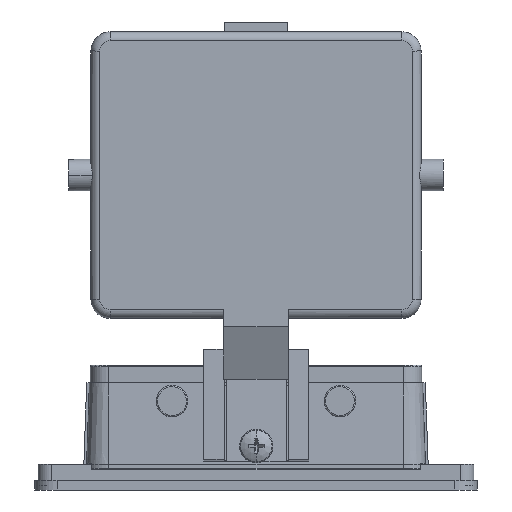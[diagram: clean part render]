
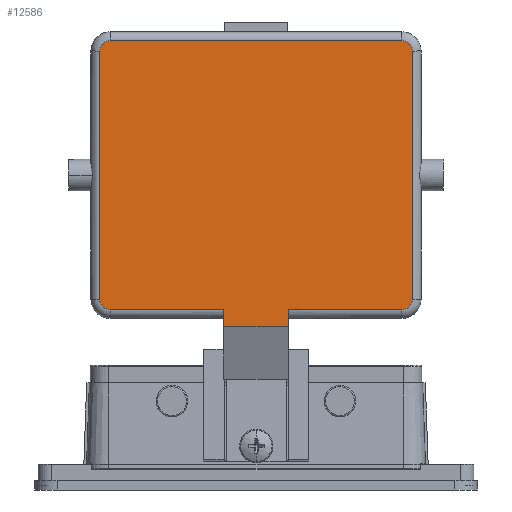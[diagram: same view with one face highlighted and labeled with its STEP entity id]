
A CAD part, front view. The second image highlights one B-rep face of the part: STEP entity #12586.
In plain terms, the highlighted planar face has unit normal (0, -1, -0.002).
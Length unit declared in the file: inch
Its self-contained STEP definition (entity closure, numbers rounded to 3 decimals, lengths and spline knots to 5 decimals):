
#2936 = DIRECTION ( 'NONE',  ( 1., 0., 0. ) ) ;
#2937 = VECTOR ( 'NONE', #2936, 39.37008 ) ;
#2938 = CARTESIAN_POINT ( 'NONE',  ( 0., -2.60897, 1.78641 ) ) ;
#2939 = LINE ( 'NONE', #2938, #2937 ) ;
#3408 = VECTOR ( 'NONE', #3413, 39.37008 ) ;
#3409 = CARTESIAN_POINT ( 'NONE',  ( 0.36338, -2.60236, -1.05533 ) ) ;
#3413 = DIRECTION ( 'NONE',  ( 0., 0.002, -1. ) ) ;
#3416 = LINE ( 'NONE', #3409, #3408 ) ;
#3446 = CARTESIAN_POINT ( 'NONE',  ( 0.36338, -2.60897, 1.78641 ) ) ;
#3682 = CARTESIAN_POINT ( 'NONE',  ( -0.36338, -2.60941, 1.9761 ) ) ;
#3784 = DIRECTION ( 'NONE',  ( 1., 0., 0. ) ) ;
#3785 = VECTOR ( 'NONE', #3784, 39.37008 ) ;
#3786 = CARTESIAN_POINT ( 'NONE',  ( 1.636, -2.60941, 1.9761 ) ) ;
#3787 = LINE ( 'NONE', #3786, #3785 ) ;
#3792 = CARTESIAN_POINT ( 'NONE',  ( 1.636, -2.60941, 1.9761 ) ) ;
#4281 = CARTESIAN_POINT ( 'NONE',  ( 0.36338, -2.60941, 1.9761 ) ) ;
#4820 = CARTESIAN_POINT ( 'NONE',  ( -1.636, -2.60941, 1.9761 ) ) ;
#6268 = CARTESIAN_POINT ( 'NONE',  ( -0.36338, -2.60897, 1.78641 ) ) ;
#6425 = LINE ( 'NONE', #6465, #6464 ) ;
#6463 = DIRECTION ( 'NONE',  ( 0., -0.002, 1. ) ) ;
#6464 = VECTOR ( 'NONE', #6463, 39.37008 ) ;
#6465 = CARTESIAN_POINT ( 'NONE',  ( -0.36338, -2.60236, -1.05533 ) ) ;
#6743 = FACE_OUTER_BOUND ( 'NONE', #12531, .T. ) ;
#6792 = CARTESIAN_POINT ( 'NONE',  ( 1.75062, -2.60968, 2.09072 ) ) ;
#6793 = DIRECTION ( 'NONE',  ( -1., 0., 0. ) ) ;
#6836 = DIRECTION ( 'NONE',  ( 0., -1., -0.002 ) ) ;
#6837 = CARTESIAN_POINT ( 'NONE',  ( 1.636, -2.60968, 2.09072 ) ) ;
#6838 = AXIS2_PLACEMENT_3D ( 'NONE', #6837, #6836, #6793 ) ;
#6839 = CIRCLE ( 'NONE', #6838, 0.11462 ) ;
#6862 = PLANE ( 'NONE',  #6960 ) ;
#6940 = DIRECTION ( 'NONE',  ( 0., -0.002, 1. ) ) ;
#6941 = VECTOR ( 'NONE', #6940, 39.37008 ) ;
#6942 = CARTESIAN_POINT ( 'NONE',  ( 1.75062, -2.61615, 4.87471 ) ) ;
#6943 = LINE ( 'NONE', #6942, #6941 ) ;
#6957 = DIRECTION ( 'NONE',  ( -1., 0., 0. ) ) ;
#6958 = DIRECTION ( 'NONE',  ( 0., 1., 0.002 ) ) ;
#6959 = CARTESIAN_POINT ( 'NONE',  ( 0., -2.60236, -1.05533 ) ) ;
#6960 = AXIS2_PLACEMENT_3D ( 'NONE', #6959, #6958, #6957 ) ;
#12070 = CARTESIAN_POINT ( 'NONE',  ( -1.75062, -2.61615, 4.87471 ) ) ;
#12161 = EDGE_CURVE ( 'NONE', #12284, #13272, #2939, .T. ) ;
#12208 = DIRECTION ( 'NONE',  ( -1., 0., 0. ) ) ;
#12210 = DIRECTION ( 'NONE',  ( 0., -1., -0.002 ) ) ;
#12211 = CARTESIAN_POINT ( 'NONE',  ( -1.636, -2.60968, 2.09072 ) ) ;
#12212 = AXIS2_PLACEMENT_3D ( 'NONE', #12211, #12210, #12208 ) ;
#12214 = CIRCLE ( 'NONE', #12212, 0.11462 ) ;
#12284 = VERTEX_POINT ( 'NONE', #6268 ) ;
#12367 = EDGE_CURVE ( 'NONE', #12284, #14859, #6425, .T. ) ;
#12528 = ORIENTED_EDGE ( 'NONE', *, *, #12529, .T. ) ;
#12529 = EDGE_CURVE ( 'NONE', #14899, #12530, #6839, .T. ) ;
#12530 = VERTEX_POINT ( 'NONE', #6792 ) ;
#12531 = EDGE_LOOP ( 'NONE', ( #12587, #12633, #12634, #12635, #12528, #12627, #12629, #12542, #12541, #12543, #12536, #12616 ) ) ;
#12536 = ORIENTED_EDGE ( 'NONE', *, *, #13510, .T. ) ;
#12541 = ORIENTED_EDGE ( 'NONE', *, *, #13403, .T. ) ;
#12542 = ORIENTED_EDGE ( 'NONE', *, *, #13437, .T. ) ;
#12543 = ORIENTED_EDGE ( 'NONE', *, *, #13374, .T. ) ;
#12586 = ADVANCED_FACE ( 'NONE', ( #6743 ), #6862, .F. ) ;
#12587 = ORIENTED_EDGE ( 'NONE', *, *, #12367, .F. ) ;
#12616 = ORIENTED_EDGE ( 'NONE', *, *, #14816, .T. ) ;
#12627 = ORIENTED_EDGE ( 'NONE', *, *, #12628, .T. ) ;
#12628 = EDGE_CURVE ( 'NONE', #12530, #13385, #6943, .T. ) ;
#12629 = ORIENTED_EDGE ( 'NONE', *, *, #13384, .T. ) ;
#12633 = ORIENTED_EDGE ( 'NONE', *, *, #12161, .T. ) ;
#12634 = ORIENTED_EDGE ( 'NONE', *, *, #13268, .F. ) ;
#12635 = ORIENTED_EDGE ( 'NONE', *, *, #14905, .T. ) ;
#13268 = EDGE_CURVE ( 'NONE', #14916, #13272, #3416, .T. ) ;
#13272 = VERTEX_POINT ( 'NONE', #3446 ) ;
#13347 = VERTEX_POINT ( 'NONE', #16602 ) ;
#13374 = EDGE_CURVE ( 'NONE', #13488, #13347, #16721, .T. ) ;
#13384 = EDGE_CURVE ( 'NONE', #13385, #13458, #16751, .T. ) ;
#13385 = VERTEX_POINT ( 'NONE', #16747 ) ;
#13403 = EDGE_CURVE ( 'NONE', #13435, #13488, #16782, .T. ) ;
#13435 = VERTEX_POINT ( 'NONE', #16918 ) ;
#13437 = EDGE_CURVE ( 'NONE', #13458, #13435, #16916, .T. ) ;
#13458 = VERTEX_POINT ( 'NONE', #16953 ) ;
#13488 = VERTEX_POINT ( 'NONE', #12070 ) ;
#13510 = EDGE_CURVE ( 'NONE', #13347, #14997, #12214, .T. ) ;
#14816 = EDGE_CURVE ( 'NONE', #14997, #14859, #17316, .T. ) ;
#14859 = VERTEX_POINT ( 'NONE', #3682 ) ;
#14899 = VERTEX_POINT ( 'NONE', #3792 ) ;
#14905 = EDGE_CURVE ( 'NONE', #14916, #14899, #3787, .T. ) ;
#14916 = VERTEX_POINT ( 'NONE', #4281 ) ;
#14997 = VERTEX_POINT ( 'NONE', #4820 ) ;
#16602 = CARTESIAN_POINT ( 'NONE',  ( -1.75062, -2.60968, 2.09072 ) ) ;
#16698 = CARTESIAN_POINT ( 'NONE',  ( 1.636, -2.61615, 4.87471 ) ) ;
#16718 = DIRECTION ( 'NONE',  ( 0., 0.002, -1. ) ) ;
#16719 = VECTOR ( 'NONE', #16718, 39.37008 ) ;
#16720 = CARTESIAN_POINT ( 'NONE',  ( -1.75062, -2.60236, -1.05533 ) ) ;
#16721 = LINE ( 'NONE', #16720, #16719 ) ;
#16747 = CARTESIAN_POINT ( 'NONE',  ( 1.75062, -2.61615, 4.87471 ) ) ;
#16748 = DIRECTION ( 'NONE',  ( -1., 0., 0. ) ) ;
#16749 = DIRECTION ( 'NONE',  ( 0., -1., -0.002 ) ) ;
#16750 = AXIS2_PLACEMENT_3D ( 'NONE', #16698, #16749, #16748 ) ;
#16751 = CIRCLE ( 'NONE', #16750, 0.11462 ) ;
#16778 = DIRECTION ( 'NONE',  ( -1., 0., 0. ) ) ;
#16779 = DIRECTION ( 'NONE',  ( 0., -1., -0.002 ) ) ;
#16780 = CARTESIAN_POINT ( 'NONE',  ( -1.636, -2.61615, 4.87471 ) ) ;
#16781 = AXIS2_PLACEMENT_3D ( 'NONE', #16780, #16779, #16778 ) ;
#16782 = CIRCLE ( 'NONE', #16781, 0.11462 ) ;
#16913 = DIRECTION ( 'NONE',  ( -1., 0., 0. ) ) ;
#16914 = VECTOR ( 'NONE', #16913, 39.37008 ) ;
#16915 = CARTESIAN_POINT ( 'NONE',  ( 0., -2.61642, 4.98933 ) ) ;
#16916 = LINE ( 'NONE', #16915, #16914 ) ;
#16918 = CARTESIAN_POINT ( 'NONE',  ( -1.636, -2.61642, 4.98933 ) ) ;
#16953 = CARTESIAN_POINT ( 'NONE',  ( 1.636, -2.61642, 4.98933 ) ) ;
#17313 = DIRECTION ( 'NONE',  ( 1., 0., 0. ) ) ;
#17314 = VECTOR ( 'NONE', #17313, 39.37008 ) ;
#17315 = CARTESIAN_POINT ( 'NONE',  ( -0.36338, -2.60941, 1.9761 ) ) ;
#17316 = LINE ( 'NONE', #17315, #17314 ) ;
